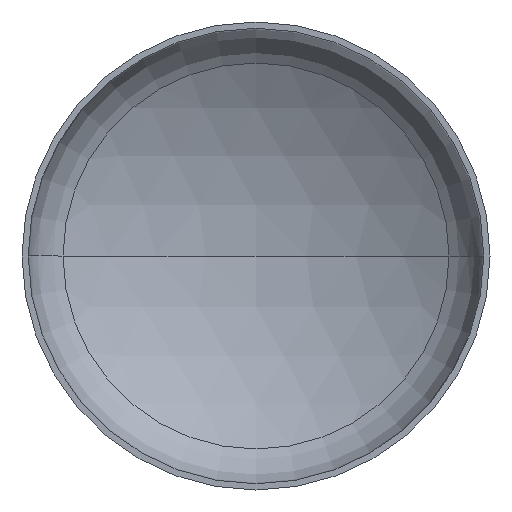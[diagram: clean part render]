
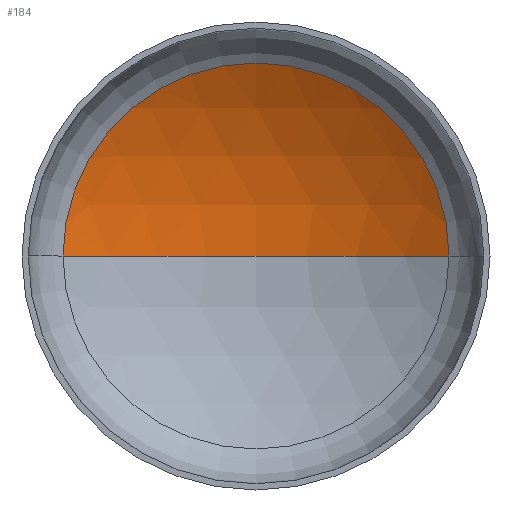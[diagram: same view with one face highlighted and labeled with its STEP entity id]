
A CAD part, front view. The second image highlights one B-rep face of the part: STEP entity #184.
In plain terms, the highlighted spherical face has radius 1200 mm.
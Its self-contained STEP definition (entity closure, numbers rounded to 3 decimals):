
#1 = CARTESIAN_POINT ( 'NONE',  ( 0., -771.204, 0. ) ) ;
#7 = SPHERICAL_SURFACE ( 'NONE', #76, 1200. ) ;
#23 = AXIS2_PLACEMENT_3D ( 'NONE', #202, #50, #358 ) ;
#27 = AXIS2_PLACEMENT_3D ( 'NONE', #226, #386, #173 ) ;
#34 = EDGE_LOOP ( 'NONE', ( #162, #96, #83 ) ) ;
#35 = VERTEX_POINT ( 'NONE', #352 ) ;
#40 = AXIS2_PLACEMENT_3D ( 'NONE', #97, #145, #134 ) ;
#45 = VERTEX_POINT ( 'NONE', #245 ) ;
#50 = DIRECTION ( 'NONE',  ( 0., 0., 1. ) ) ;
#76 = AXIS2_PLACEMENT_3D ( 'NONE', #1, #313, #238 ) ;
#83 = ORIENTED_EDGE ( 'NONE', *, *, #343, .T. ) ;
#92 = CIRCLE ( 'NONE', #27, 1200. ) ;
#96 = ORIENTED_EDGE ( 'NONE', *, *, #356, .T. ) ;
#97 = CARTESIAN_POINT ( 'NONE',  ( 0., 257.09, 0. ) ) ;
#116 = CIRCLE ( 'NONE', #40, 618.557 ) ;
#128 = VERTEX_POINT ( 'NONE', #203 ) ;
#134 = DIRECTION ( 'NONE',  ( 1., 0., 0. ) ) ;
#145 = DIRECTION ( 'NONE',  ( 0., -1., 0. ) ) ;
#162 = ORIENTED_EDGE ( 'NONE', *, *, #360, .F. ) ;
#173 = DIRECTION ( 'NONE',  ( -1., 0., 0. ) ) ;
#184 = ADVANCED_FACE ( 'NONE', ( #287 ), #7, .F. ) ;
#202 = CARTESIAN_POINT ( 'NONE',  ( 0., -771.204, 0. ) ) ;
#203 = CARTESIAN_POINT ( 'NONE',  ( -618.557, 257.09, 0. ) ) ;
#226 = CARTESIAN_POINT ( 'NONE',  ( 0., -771.204, 0. ) ) ;
#238 = DIRECTION ( 'NONE',  ( -1., 0., 0. ) ) ;
#245 = CARTESIAN_POINT ( 'NONE',  ( 0., 428.796, 0. ) ) ;
#261 = CIRCLE ( 'NONE', #23, 1200. ) ;
#287 = FACE_OUTER_BOUND ( 'NONE', #34, .T. ) ;
#313 = DIRECTION ( 'NONE',  ( 0., 0., -1. ) ) ;
#343 = EDGE_CURVE ( 'NONE', #35, #128, #116, .T. ) ;
#352 = CARTESIAN_POINT ( 'NONE',  ( 618.557, 257.09, 0. ) ) ;
#356 = EDGE_CURVE ( 'NONE', #45, #35, #92, .T. ) ;
#358 = DIRECTION ( 'NONE',  ( 1., 0., 0. ) ) ;
#360 = EDGE_CURVE ( 'NONE', #45, #128, #261, .T. ) ;
#386 = DIRECTION ( 'NONE',  ( 0., 0., -1. ) ) ;
